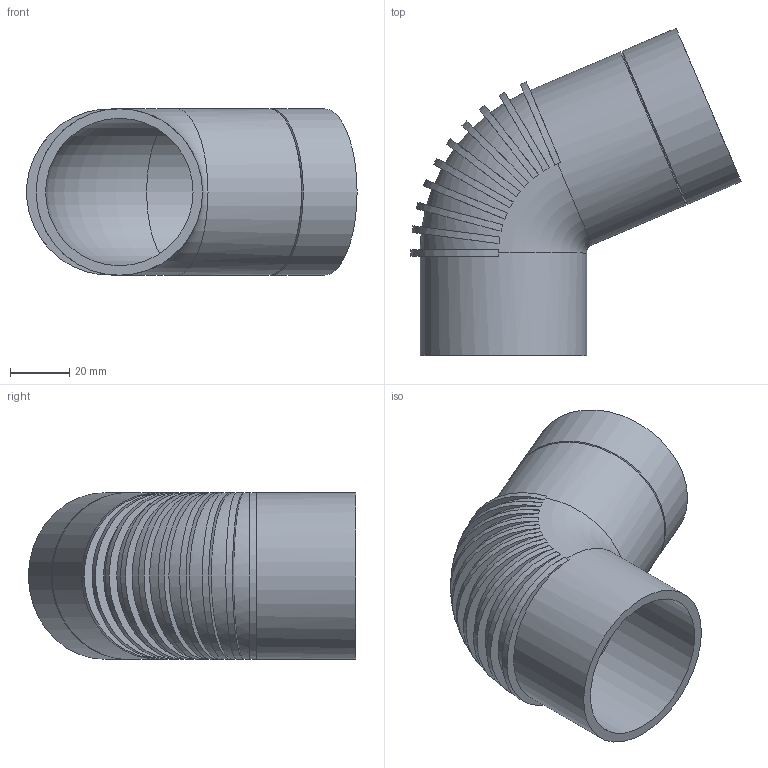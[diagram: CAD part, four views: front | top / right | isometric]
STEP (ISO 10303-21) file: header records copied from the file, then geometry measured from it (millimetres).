
FILE_DESCRIPTION(/* description */ (''),/* implementation_level */ '2;1');
FILE_NAME(/* name */ 'Z:\Geberit\Export\NewStep\Bogen_Ipart\stp\305670.stp',/* time_stamp */ '2014-04-03T16:43:03+02:00',/* author */ ('Marco'),/* organization */ (''),/* preprocessor_version */ 'ST-DEVELOPER v15.2',/* originating_system */ 'Autodesk Inventor 2014',/* authorisation */ '');
FILE_SCHEMA (('AUTOMOTIVE_DESIGN { 1 0 10303 214 3 1 1 }'));
Length unit declared in the file: millimetre
Products named in the file (1): 305670
Bounding box: 111.08 x 110.08 x 56 mm (x, y, z)
Volume: 70453.2 mm3; surface area: 46450.9 mm2
Topology: 1 solids, 1 shells, 41 faces, 114 edges, 75 vertices
Faces by surface type: plane 22, cylinder 15, cone 2, torus 2
Full cylindrical faces by diameter (mm): 49.6 x2, 56 x3
Entity records: 1834 total; most frequent: CARTESIAN_POINT 890, ORIENTED_EDGE 186, DIRECTION 154, EDGE_CURVE 93, AXIS2_PLACEMENT_3D 75, VERTEX_POINT 71, EDGE_LOOP 60, B_SPLINE_CURVE_WITH_KNOTS 56
